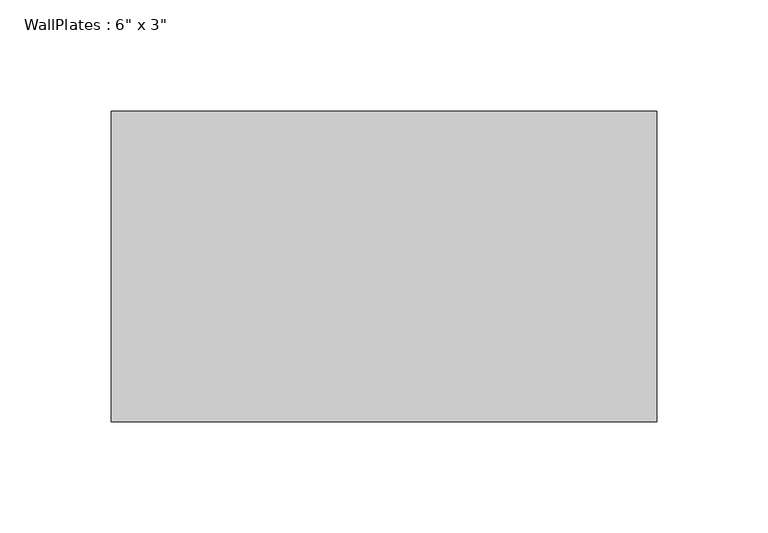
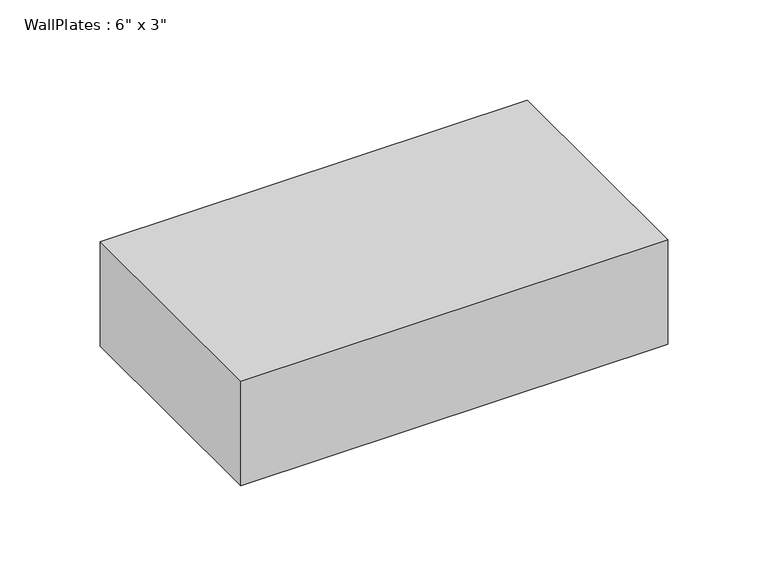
"""IFC4 building model written with IfcOpenShell, lengths in millimetres: beam geometry."""

from ifc_helpers import new_model, si_unit, frame, origin, place, context, project, spatial, polyline, outline, extrude, source, transform, mapped, element, save


def beam_a6a72058(model_context):
    return source(origin(), model_context, "Body", "SweptSolid", [
        extrude(outline(polyline([(-122.7616667, -69.85), (-122.7616667, 69.85), (122.7616667, 69.85), (122.7616667, -69.85), (-122.7616667, -69.85)])), frame((0.0, 0.0, -31.75), z_axis=(0.0, 0.0, 1.0), x_axis=(1.0, 0.0, 0.0)), (0.0, 0.0, 1.0), 63.5),
    ])


if __name__ == "__main__":
    model = new_model("IFC4")
    model_context = context("Model", 3, world=origin())
    ifc_project = project(units=[si_unit("LENGTHUNIT", "METRE", prefix="MILLI")], contexts=[model_context])
    site = spatial("IfcSite", under=ifc_project)
    building = spatial("IfcBuilding", under=site)
    placement = place(None, origin())
    beam_shape = beam_a6a72058(model_context)
    element("IfcBeam", 1, ObjectType="WallPlates : 6\" x 3\"", at=placement, inside=building, context=model_context, shape_type="MappedRepresentation", body=[
        mapped(beam_shape, transform((0.0, 0.0, 0.0), x_axis=(1.0, 0.0, 0.0), y_axis=(0.0, 1.0, 0.0), z_axis=(0.0, 0.0, 1.0))),
    ])
    save(model, "model.ifc")
